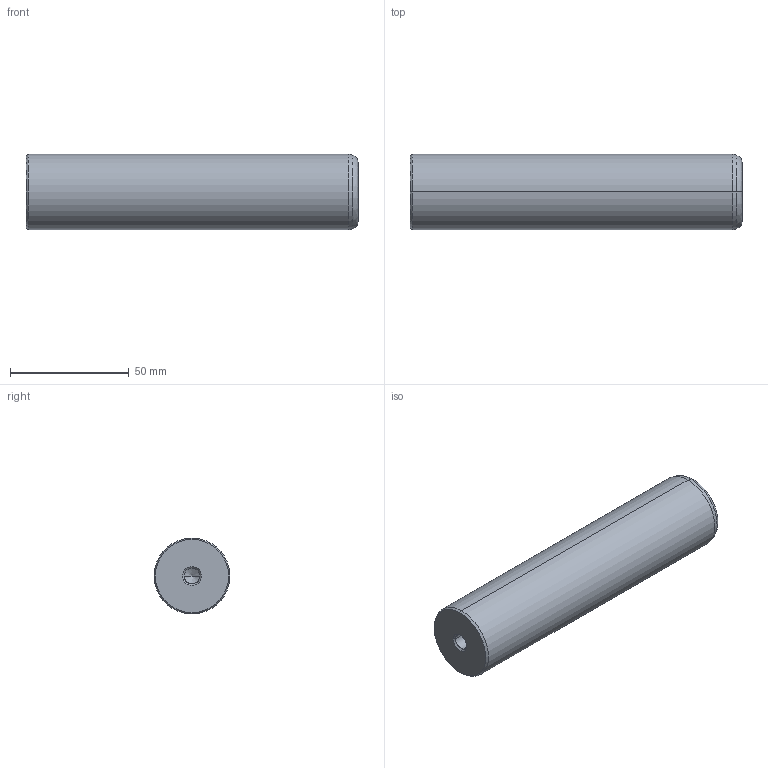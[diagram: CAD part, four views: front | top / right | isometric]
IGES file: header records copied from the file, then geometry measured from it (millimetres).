
Start section: START RECORD GO HERE.
Global section: file name: 720-32x140.igs; native system: DASSAULT SYSTEMES CATIA V5 R20 - www.3ds.com; preprocessor: CATIA Version 5 Release 20 ; author: Utente; organization: NB04-ASUS; date: 20210101.132025; units: millimetre
Bounding box: 140 x 32 x 32 mm (x, y, z)
Surface area: 16467.1 mm2 (no closed solid volume)
Topology: 0 solids, 0 shells, 22 faces, 120 edges, 116 vertices
Faces by surface type: revolution 20, plane 2
